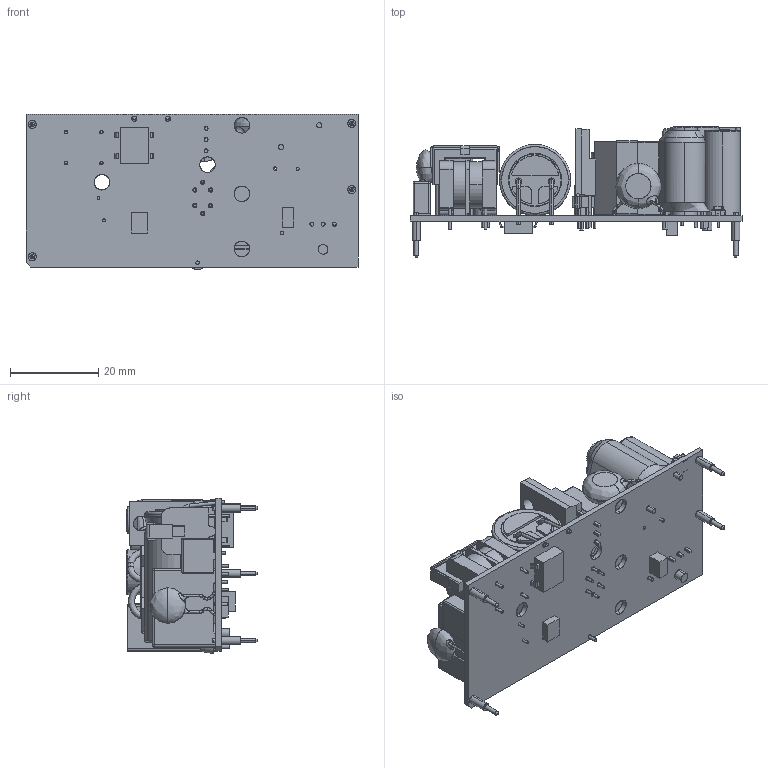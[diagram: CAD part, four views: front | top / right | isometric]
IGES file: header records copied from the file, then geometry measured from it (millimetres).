
Start section: SolidWorks IGES file using analytic representation for surfaces
Global section: file name: C:\Users\dcook\Desktop\KENT\CAD Models for Dave to clean\CAD Models for Dave to clean\ECL25USXX-P\ECL25USXX-P.IGS; native system: SolidWorks 2012; preprocessor: SolidWorks 2012; author: dcook; date: 120112.092013; units: millimetre
Bounding box: 75.2 x 29.6 x 35.2 mm (x, y, z)
Surface area: 20753.7 mm2 (no closed solid volume)
Topology: 0 solids, 0 shells, 1262 faces, 13285 edges, 13262 vertices
Faces by surface type: bspline 784, revolution 478
